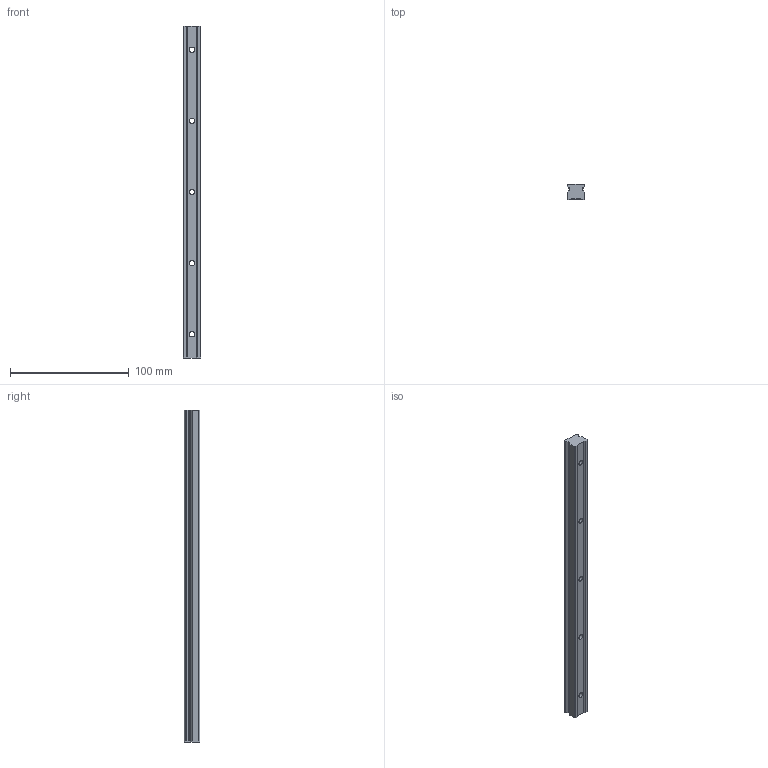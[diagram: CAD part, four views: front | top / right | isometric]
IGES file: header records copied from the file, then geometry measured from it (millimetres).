
Start section: SolidWorks IGES file using analytic representation for surfaces
Global section: file name: C:\Users\IanO\Desktop\L1016_v2\L1016.BL15_v2\L1016.BL15_v2_20190611_IGES\L1016.BL15-0280.igs; native system: SolidWorks 2017; preprocessor: SolidWorks 2017; author: IanO; date: 190612.122515; units: millimetre
Bounding box: 15 x 13 x 280 mm (x, y, z)
Surface area: 17478.2 mm2 (no closed solid volume)
Topology: 0 solids, 0 shells, 51 faces, 872 edges, 872 vertices
Faces by surface type: bspline 27, revolution 24
